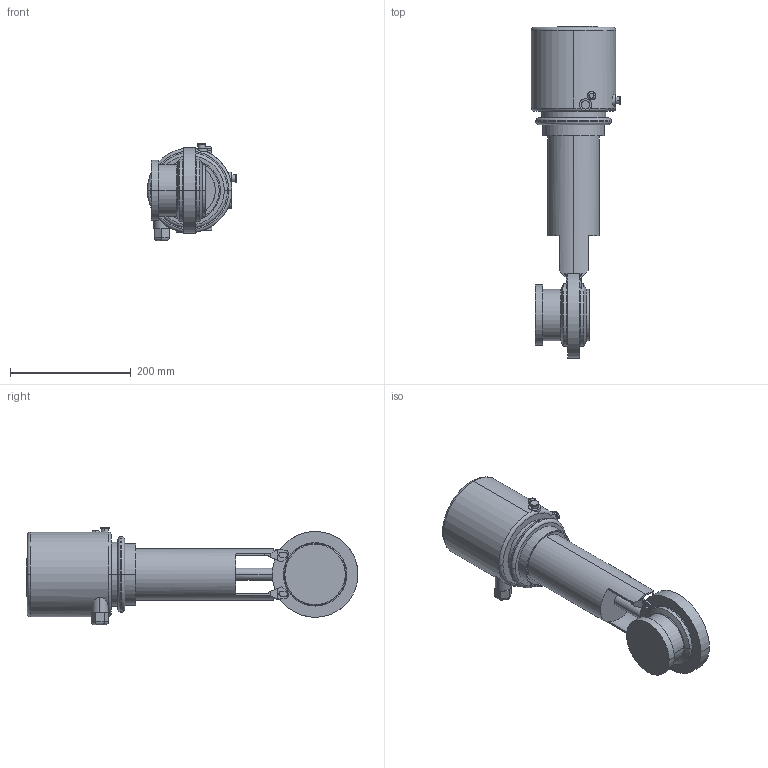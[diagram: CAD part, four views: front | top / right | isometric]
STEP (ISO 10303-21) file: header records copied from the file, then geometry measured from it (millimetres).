
FILE_DESCRIPTION(('Creo Elements/Direct Modeling STEP Export'),'2;1');
FILE_NAME('SV1-80-CU4-1S2K.stp','2014-07-07T14:58:32',(''),(''),'Creo Elements/Direct Modeling STEP processor for AP214 (Solid Model)','Creo Elements/Direct Modeling 17.0D 15-Jul-2011 (C) Parametric Technology GmbH','');
FILE_SCHEMA(('AUTOMOTIVE_DESIGN { 1 0 10303 214 1 1 1 1 }'));
Length unit declared in the file: millimetre
Products named in the file (3): SV1-80-FZ-1S2K; CU4-T-SPX_logo; SV1-80-CU4-1S2K
Assembly tree (2 placements, depth 2):
  SV1-80-CU4-1S2K
    CU4-T-SPX_logo
    SV1-80-FZ-1S2K
Bounding box: 148 x 549.5 x 161.4 mm (x, y, z)
Volume: 4268143.6 mm3; surface area: 255935 mm2
Topology: 2 solids, 2 shells, 255 faces, 656 edges, 422 vertices
Faces by surface type: plane 114, cylinder 86, extrusion 33, torus 18, cone 4
Entity records: 11814 total; most frequent: CARTESIAN_POINT 5885, ORIENTED_EDGE 1312, DIRECTION 1074, EDGE_CURVE 656, VERTEX_POINT 422, AXIS2_PLACEMENT_3D 373, VECTOR 328, LINE 295
